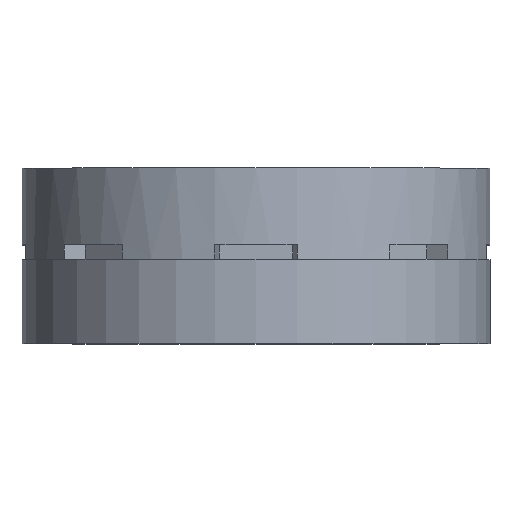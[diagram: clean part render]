
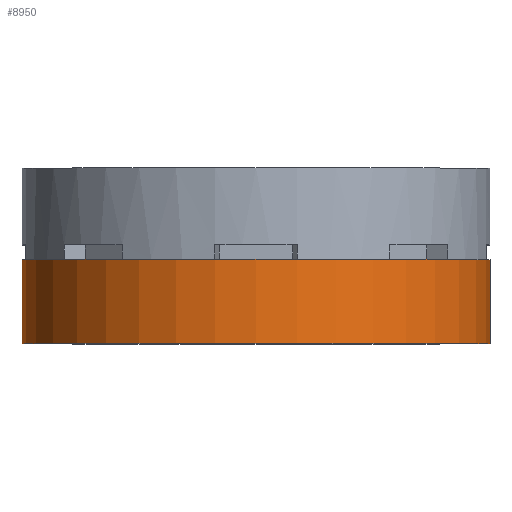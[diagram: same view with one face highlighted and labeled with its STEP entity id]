
A CAD part, top view. The second image highlights one B-rep face of the part: STEP entity #8950.
In plain terms, the highlighted cylindrical face has radius 25.4 mm (diameter 50.8 mm), a full revolution.
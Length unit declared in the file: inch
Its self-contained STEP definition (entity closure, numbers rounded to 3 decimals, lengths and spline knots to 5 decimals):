
#7890 = FACE_OUTER_BOUND ( 'NONE', #25243, .T. ) ;
#8169 = FACE_OUTER_BOUND ( 'NONE', #49057, .T. ) ;
#8950 = ADVANCED_FACE ( 'NONE', ( #8169, #7890 ), #24872, .T. ) ;
#11855 = AXIS2_PLACEMENT_3D ( 'NONE', #31441, #44408, #14763 ) ;
#14763 = DIRECTION ( 'NONE',  ( 0., 0., -1. ) ) ;
#16225 = AXIS2_PLACEMENT_3D ( 'NONE', #54554, #42095, #33063 ) ;
#18433 = VERTEX_POINT ( 'NONE', #22938 ) ;
#18717 = VERTEX_POINT ( 'NONE', #53469 ) ;
#21688 = DIRECTION ( 'NONE',  ( 0., 1., 0. ) ) ;
#22938 = CARTESIAN_POINT ( 'NONE',  ( 0., 0.35938, -1. ) ) ;
#24872 = CYLINDRICAL_SURFACE ( 'NONE', #16225, 1. ) ;
#25243 = EDGE_LOOP ( 'NONE', ( #28419 ) ) ;
#25506 = CIRCLE ( 'NONE', #48990, 1. ) ;
#28419 = ORIENTED_EDGE ( 'NONE', *, *, #43063, .T. ) ;
#31022 = CARTESIAN_POINT ( 'NONE',  ( 0., 0., 0. ) ) ;
#31441 = CARTESIAN_POINT ( 'NONE',  ( 0., 0.35938, 0. ) ) ;
#33063 = DIRECTION ( 'NONE',  ( 0., 0., -1. ) ) ;
#35068 = ORIENTED_EDGE ( 'NONE', *, *, #46375, .T. ) ;
#38915 = DIRECTION ( 'NONE',  ( 0., 0., 1. ) ) ;
#42095 = DIRECTION ( 'NONE',  ( 0., -1., 0. ) ) ;
#43063 = EDGE_CURVE ( 'NONE', #18433, #18433, #53403, .T. ) ;
#44408 = DIRECTION ( 'NONE',  ( 0., -1., 0. ) ) ;
#46375 = EDGE_CURVE ( 'NONE', #18717, #18717, #25506, .T. ) ;
#48990 = AXIS2_PLACEMENT_3D ( 'NONE', #31022, #21688, #38915 ) ;
#49057 = EDGE_LOOP ( 'NONE', ( #35068 ) ) ;
#53403 = CIRCLE ( 'NONE', #11855, 1. ) ;
#53469 = CARTESIAN_POINT ( 'NONE',  ( 0., 0., 1. ) ) ;
#54554 = CARTESIAN_POINT ( 'NONE',  ( 0., 0.75, 0. ) ) ;
